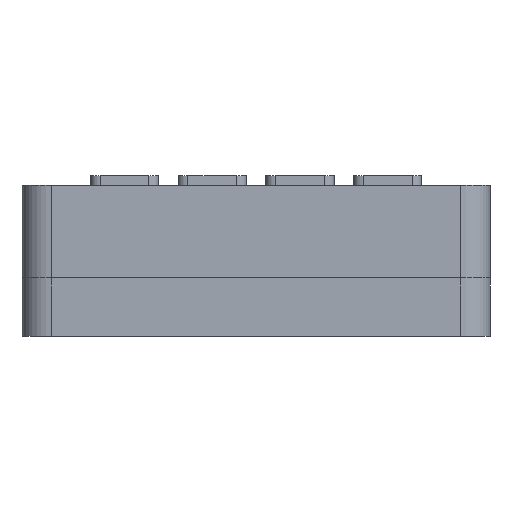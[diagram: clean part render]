
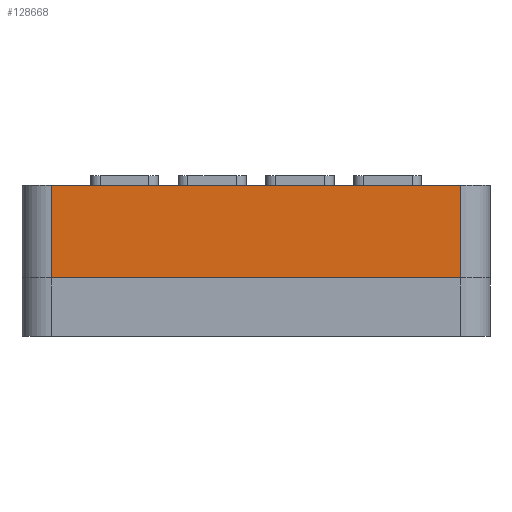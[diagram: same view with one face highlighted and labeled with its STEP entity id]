
A CAD part, front view. The second image highlights one B-rep face of the part: STEP entity #128668.
In plain terms, the highlighted planar face has unit normal (0, -1, 0).
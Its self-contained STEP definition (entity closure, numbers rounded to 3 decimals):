
#123705 = PLANE('',#123706);
#123706 = AXIS2_PLACEMENT_3D('',#123707,#123708,#123709);
#123707 = CARTESIAN_POINT('',(0.,0.,31.));
#123708 = DIRECTION('',(0.,0.,1.));
#123709 = DIRECTION('',(1.,0.,0.));
#123733 = CYLINDRICAL_SURFACE('',#123734,6.);
#123734 = AXIS2_PLACEMENT_3D('',#123735,#123736,#123737);
#123735 = CARTESIAN_POINT('',(6.,6.,12.));
#123736 = DIRECTION('',(0.,0.,1.));
#123737 = DIRECTION('',(-1.,-0.,0.));
#123761 = PLANE('',#123762);
#123762 = AXIS2_PLACEMENT_3D('',#123763,#123764,#123765);
#123763 = CARTESIAN_POINT('',(0.,0.,12.));
#123764 = DIRECTION('',(0.,0.,1.));
#123765 = DIRECTION('',(1.,0.,0.));
#123802 = VERTEX_POINT('',#123803);
#123803 = CARTESIAN_POINT('',(6.,0.,31.));
#123825 = EDGE_CURVE('',#123802,#123826,#123828,.T.);
#123826 = VERTEX_POINT('',#123827);
#123827 = CARTESIAN_POINT('',(90.,0.,31.));
#123828 = SURFACE_CURVE('',#123829,(#123833,#123840),.PCURVE_S1.);
#123829 = LINE('',#123830,#123831);
#123830 = CARTESIAN_POINT('',(0.,0.,31.));
#123831 = VECTOR('',#123832,1.);
#123832 = DIRECTION('',(1.,0.,0.));
#123833 = PCURVE('',#123705,#123834);
#123834 = DEFINITIONAL_REPRESENTATION('',(#123835),#123839);
#123835 = LINE('',#123836,#123837);
#123836 = CARTESIAN_POINT('',(0.,0.));
#123837 = VECTOR('',#123838,1.);
#123838 = DIRECTION('',(1.,0.));
#123839 = ( GEOMETRIC_REPRESENTATION_CONTEXT(2) 
PARAMETRIC_REPRESENTATION_CONTEXT() REPRESENTATION_CONTEXT('2D SPACE',''
  ) );
#123840 = PCURVE('',#123841,#123846);
#123841 = PLANE('',#123842);
#123842 = AXIS2_PLACEMENT_3D('',#123843,#123844,#123845);
#123843 = CARTESIAN_POINT('',(0.,0.,12.));
#123844 = DIRECTION('',(0.,1.,0.));
#123845 = DIRECTION('',(0.,0.,1.));
#123846 = DEFINITIONAL_REPRESENTATION('',(#123847),#123851);
#123847 = LINE('',#123848,#123849);
#123848 = CARTESIAN_POINT('',(19.,0.));
#123849 = VECTOR('',#123850,1.);
#123850 = DIRECTION('',(0.,1.));
#123851 = ( GEOMETRIC_REPRESENTATION_CONTEXT(2) 
PARAMETRIC_REPRESENTATION_CONTEXT() REPRESENTATION_CONTEXT('2D SPACE',''
  ) );
#123874 = CYLINDRICAL_SURFACE('',#123875,6.);
#123875 = AXIS2_PLACEMENT_3D('',#123876,#123877,#123878);
#123876 = CARTESIAN_POINT('',(90.,6.,12.));
#123877 = DIRECTION('',(0.,0.,1.));
#123878 = DIRECTION('',(1.,0.,-0.));
#128020 = VERTEX_POINT('',#128021);
#128021 = CARTESIAN_POINT('',(6.,0.,12.));
#128043 = EDGE_CURVE('',#128020,#128044,#128046,.T.);
#128044 = VERTEX_POINT('',#128045);
#128045 = CARTESIAN_POINT('',(90.,0.,12.));
#128046 = SURFACE_CURVE('',#128047,(#128051,#128058),.PCURVE_S1.);
#128047 = LINE('',#128048,#128049);
#128048 = CARTESIAN_POINT('',(0.,0.,12.));
#128049 = VECTOR('',#128050,1.);
#128050 = DIRECTION('',(1.,0.,0.));
#128051 = PCURVE('',#123761,#128052);
#128052 = DEFINITIONAL_REPRESENTATION('',(#128053),#128057);
#128053 = LINE('',#128054,#128055);
#128054 = CARTESIAN_POINT('',(0.,0.));
#128055 = VECTOR('',#128056,1.);
#128056 = DIRECTION('',(1.,0.));
#128057 = ( GEOMETRIC_REPRESENTATION_CONTEXT(2) 
PARAMETRIC_REPRESENTATION_CONTEXT() REPRESENTATION_CONTEXT('2D SPACE',''
  ) );
#128058 = PCURVE('',#123841,#128059);
#128059 = DEFINITIONAL_REPRESENTATION('',(#128060),#128064);
#128060 = LINE('',#128061,#128062);
#128061 = CARTESIAN_POINT('',(0.,0.));
#128062 = VECTOR('',#128063,1.);
#128063 = DIRECTION('',(0.,1.));
#128064 = ( GEOMETRIC_REPRESENTATION_CONTEXT(2) 
PARAMETRIC_REPRESENTATION_CONTEXT() REPRESENTATION_CONTEXT('2D SPACE',''
  ) );
#128592 = EDGE_CURVE('',#128020,#123802,#128593,.T.);
#128593 = SURFACE_CURVE('',#128594,(#128598,#128605),.PCURVE_S1.);
#128594 = LINE('',#128595,#128596);
#128595 = CARTESIAN_POINT('',(6.,0.,12.));
#128596 = VECTOR('',#128597,1.);
#128597 = DIRECTION('',(0.,0.,1.));
#128598 = PCURVE('',#123733,#128599);
#128599 = DEFINITIONAL_REPRESENTATION('',(#128600),#128604);
#128600 = LINE('',#128601,#128602);
#128601 = CARTESIAN_POINT('',(1.571,0.));
#128602 = VECTOR('',#128603,1.);
#128603 = DIRECTION('',(0.,1.));
#128604 = ( GEOMETRIC_REPRESENTATION_CONTEXT(2) 
PARAMETRIC_REPRESENTATION_CONTEXT() REPRESENTATION_CONTEXT('2D SPACE',''
  ) );
#128605 = PCURVE('',#123841,#128606);
#128606 = DEFINITIONAL_REPRESENTATION('',(#128607),#128611);
#128607 = LINE('',#128608,#128609);
#128608 = CARTESIAN_POINT('',(0.,6.));
#128609 = VECTOR('',#128610,1.);
#128610 = DIRECTION('',(1.,0.));
#128611 = ( GEOMETRIC_REPRESENTATION_CONTEXT(2) 
PARAMETRIC_REPRESENTATION_CONTEXT() REPRESENTATION_CONTEXT('2D SPACE',''
  ) );
#128646 = EDGE_CURVE('',#128044,#123826,#128647,.T.);
#128647 = SURFACE_CURVE('',#128648,(#128652,#128659),.PCURVE_S1.);
#128648 = LINE('',#128649,#128650);
#128649 = CARTESIAN_POINT('',(90.,0.,12.));
#128650 = VECTOR('',#128651,1.);
#128651 = DIRECTION('',(0.,0.,1.));
#128652 = PCURVE('',#123874,#128653);
#128653 = DEFINITIONAL_REPRESENTATION('',(#128654),#128658);
#128654 = LINE('',#128655,#128656);
#128655 = CARTESIAN_POINT('',(-1.571,0.));
#128656 = VECTOR('',#128657,1.);
#128657 = DIRECTION('',(-0.,1.));
#128658 = ( GEOMETRIC_REPRESENTATION_CONTEXT(2) 
PARAMETRIC_REPRESENTATION_CONTEXT() REPRESENTATION_CONTEXT('2D SPACE',''
  ) );
#128659 = PCURVE('',#123841,#128660);
#128660 = DEFINITIONAL_REPRESENTATION('',(#128661),#128665);
#128661 = LINE('',#128662,#128663);
#128662 = CARTESIAN_POINT('',(0.,90.));
#128663 = VECTOR('',#128664,1.);
#128664 = DIRECTION('',(1.,0.));
#128665 = ( GEOMETRIC_REPRESENTATION_CONTEXT(2) 
PARAMETRIC_REPRESENTATION_CONTEXT() REPRESENTATION_CONTEXT('2D SPACE',''
  ) );
#128668 = ADVANCED_FACE('',(#128669),#123841,.F.);
#128669 = FACE_BOUND('',#128670,.F.);
#128670 = EDGE_LOOP('',(#128671,#128672,#128673,#128674));
#128671 = ORIENTED_EDGE('',*,*,#128043,.F.);
#128672 = ORIENTED_EDGE('',*,*,#128592,.T.);
#128673 = ORIENTED_EDGE('',*,*,#123825,.T.);
#128674 = ORIENTED_EDGE('',*,*,#128646,.F.);
